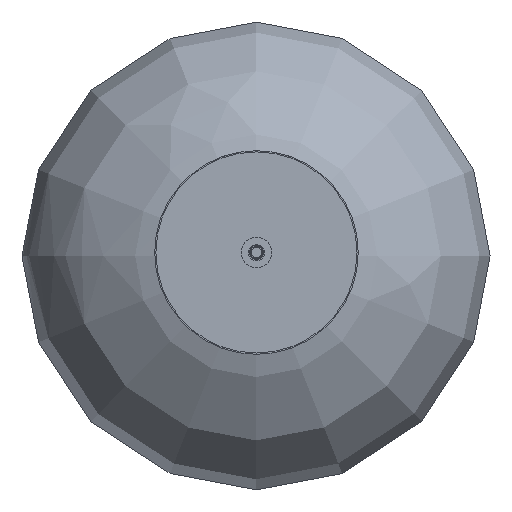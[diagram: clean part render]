
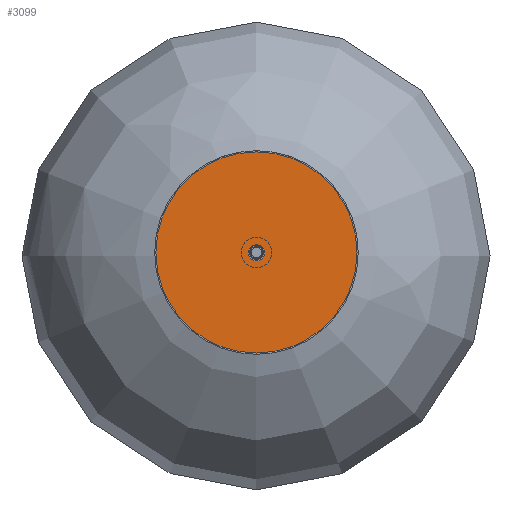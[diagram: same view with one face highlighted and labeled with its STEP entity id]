
A CAD part, top view. The second image highlights one B-rep face of the part: STEP entity #3099.
In plain terms, the highlighted planar face has unit normal (0, 0, 1).
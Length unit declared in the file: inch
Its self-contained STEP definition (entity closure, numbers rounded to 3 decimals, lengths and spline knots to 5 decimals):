
#45=PLANE('',#3351);
#79=FACE_BOUND('',#1081,.T.);
#877=FACE_OUTER_BOUND('',#1080,.T.);
#1080=EDGE_LOOP('',(#2437));
#1081=EDGE_LOOP('',(#2438));
#1244=CIRCLE('',#3346,0.2);
#1246=CIRCLE('',#3349,2.47);
#1404=VERTEX_POINT('',#8285);
#1406=VERTEX_POINT('',#8291);
#1779=EDGE_CURVE('',#1404,#1404,#1244,.T.);
#1782=EDGE_CURVE('',#1406,#1406,#1246,.F.);
#2437=ORIENTED_EDGE('',*,*,#1782,.T.);
#2438=ORIENTED_EDGE('',*,*,#1779,.T.);
#3099=ADVANCED_FACE('',(#877,#79),#45,.T.);
#3346=AXIS2_PLACEMENT_3D('',#8286,#3803,#3804);
#3349=AXIS2_PLACEMENT_3D('',#8292,#3810,#3811);
#3351=AXIS2_PLACEMENT_3D('',#8296,#3815,#3816);
#3803=DIRECTION('center_axis',(0.,0.,-1.));
#3804=DIRECTION('ref_axis',(1.,0.,0.));
#3810=DIRECTION('center_axis',(0.,0.,-1.));
#3811=DIRECTION('ref_axis',(1.,0.,0.));
#3815=DIRECTION('center_axis',(0.,0.,1.));
#3816=DIRECTION('ref_axis',(1.,0.,0.));
#8285=CARTESIAN_POINT('',(-0.19813,-0.00889,47.73));
#8286=CARTESIAN_POINT('Origin',(0.00187,-0.00889,
47.73));
#8291=CARTESIAN_POINT('',(-2.47,0.,47.73));
#8292=CARTESIAN_POINT('Origin',(0.,0.,47.73));
#8296=CARTESIAN_POINT('Origin',(0.,0.,47.73));
